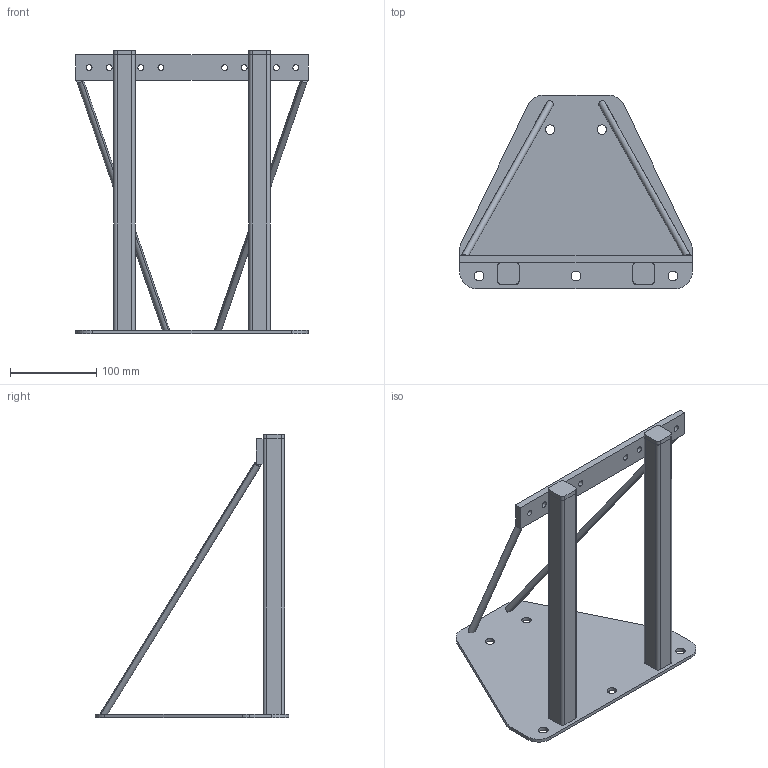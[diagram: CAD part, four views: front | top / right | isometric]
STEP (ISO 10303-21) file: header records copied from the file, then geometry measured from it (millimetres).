
FILE_DESCRIPTION (( 'STEP AP203' ), '1' );
FILE_NAME ('FM20.STEP', '2009-10-27T09:59:47', ( 'CEDIA' ), ( 'CEDIA INDUSTRIE' ), 'SwSTEP 2.0', 'SolidWorks 2009', '' );
FILE_SCHEMA (( 'CONFIG_CONTROL_DESIGN' ));
Length unit declared in the file: millimetre
Products named in the file (6): FM20; FM20_REPA; FM20_REPB; FM20_REPD; FM20_REPE; FM20_REPC
Assembly tree (8 placements, depth 2):
  FM20
    FM20_REPA
    FM20_REPC  x2
    FM20_REPB  x2
    FM20_REPD
    FM20_REPE  x2
Bounding box: 270 x 225 x 329 mm (x, y, z)
Volume: 396130.9 mm3; surface area: 249449.7 mm2
Topology: 8 solids, 8 shells, 110 faces, 282 edges, 188 vertices
Faces by surface type: cylinder 60, plane 50
Entity records: 3224 total; most frequent: DIRECTION 474, CARTESIAN_POINT 429, ORIENTED_EDGE 408, EDGE_CURVE 204, AXIS2_PLACEMENT_3D 181, VERTEX_POINT 136, VECTOR 112, LINE 112
